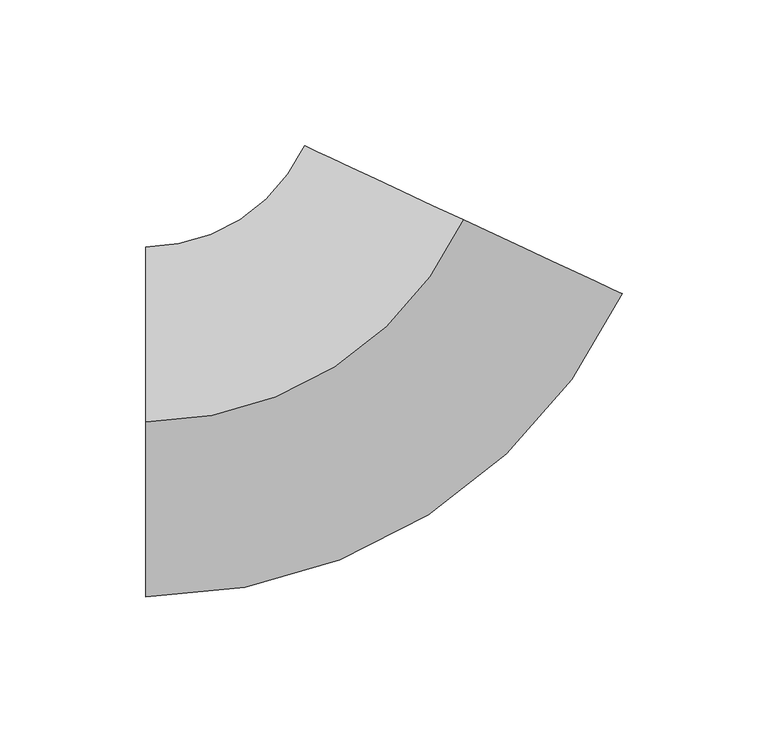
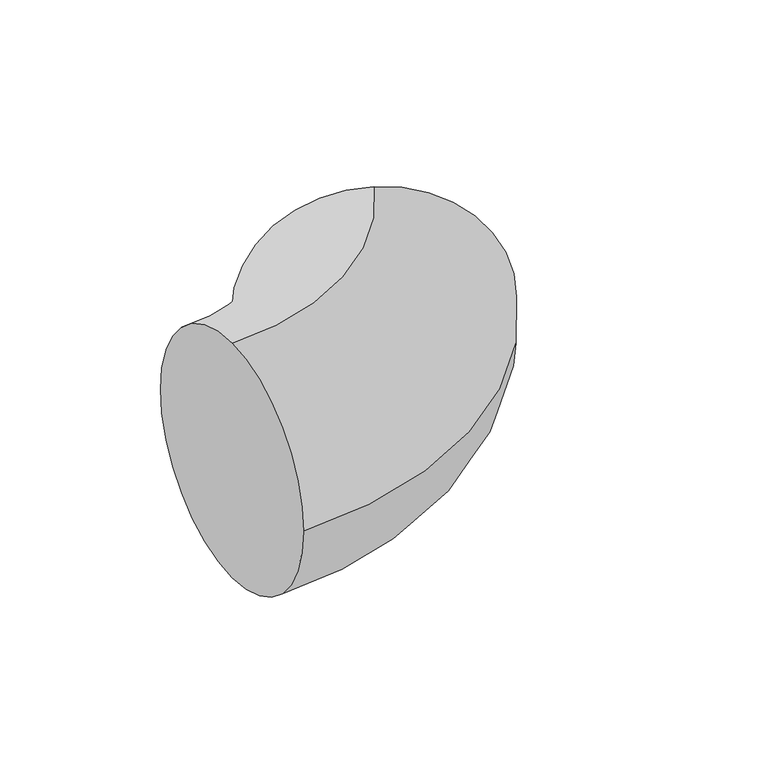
"""IFC4 building model written with IfcOpenShell, lengths in millimetres: duct fitting geometry, Семейство10 : Стандартная."""

from ifc_helpers import new_model, si_unit, point, frame, origin, place, context, project, spatial, circle_curve, ellipse_curve, trimmed, source, transform, mapped, element, save
from ifc_brep_helpers import plane_surface, revolved_surface, advanced_brep


def duct_fitting_da02216d(model_context):
    return source(origin(), model_context, "Body", "AdvancedBrep", [
        advanced_brep(
        [(-76.4484313, 0.0, 60.0), (-76.4484313, 60.0, 0.0), (-76.4484313, 0.0, -60.0), (-76.4484313, -60.0, 0.0), (32.3085031, 69.2858086, 60.0), (86.6869704, 43.9287129, 0.0), (32.3085031, 69.2858086, -60.0), (-22.0699641, 94.6429043, 0.0)],
        [
            (0, 1, circle_curve(frame((-76.4484313, 0.0, 0.0), z_axis=(-1.0, 0.0, 0.0), x_axis=(0.0, 1.0, 0.0)), 60.0)),
            (1, 2, circle_curve(frame((-76.4484313, 0.0, 0.0), z_axis=(-1.0, 0.0, 0.0), x_axis=(0.0, 1.0, 0.0)), 60.0)),
            (2, 3, circle_curve(frame((-76.4484313, 0.0, 0.0), z_axis=(-1.0, 0.0, 0.0), x_axis=(0.0, 1.0, 0.0)), 60.0)),
            (3, 0, circle_curve(frame((-76.4484313, 0.0, 0.0), z_axis=(-1.0, 0.0, 0.0), x_axis=(0.0, 1.0, 0.0)), 60.0)),
            (4, 5, circle_curve(frame((32.3085031, 69.2858086, 0.0), z_axis=(0.42261826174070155, 0.9063077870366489, 0.0), x_axis=(-0.9063077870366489, 0.42261826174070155, 0.0)), 60.0)),
            (5, 6, circle_curve(frame((32.3085031, 69.2858086, 0.0), z_axis=(0.42261826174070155, 0.9063077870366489, 0.0), x_axis=(-0.9063077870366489, 0.42261826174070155, 0.0)), 60.0)),
            (6, 7, circle_curve(frame((32.3085031, 69.2858086, 0.0), z_axis=(0.42261826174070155, 0.9063077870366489, 0.0), x_axis=(-0.9063077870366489, 0.42261826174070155, 0.0)), 60.0)),
            (7, 4, circle_curve(frame((32.3085031, 69.2858086, 0.0), z_axis=(0.42261826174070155, 0.9063077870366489, 0.0), x_axis=(-0.9063077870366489, 0.42261826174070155, 0.0)), 60.0)),
            (7, 1, circle_curve(frame((-76.4484313, 120.0, 0.0), z_axis=(0.0, 0.0, -1.0), x_axis=(0.0, -1.0, 0.0)), 60.0)),
            (0, 4, circle_curve(frame((-76.4484313, 120.0, 60.0), z_axis=(0.0, 0.0, 1.0), x_axis=(0.0, -1.0, 0.0)), 120.0)),
            (6, 2, circle_curve(frame((-76.4484313, 120.0, -60.0), z_axis=(0.0, 0.0, -1.0), x_axis=(0.0, -1.0, 0.0)), 120.0)),
            (5, 3, circle_curve(frame((-76.4484313, 120.0, 0.0), z_axis=(0.0, 0.0, -1.0), x_axis=(0.0, -1.0, 0.0)), 180.0)),
        ],
        [
            plane_surface(frame((-76.4484313, 0.0, 0.0), z_axis=(-1.0, 0.0, 0.0), x_axis=(0.0, 0.0, 1.0))),
            plane_surface(frame((32.3085031, 69.2858086, 0.0), z_axis=(0.42261826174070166, 0.906307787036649, 0.0), x_axis=(0.0, 0.0, 1.0))),
            revolved_surface(trimmed(ellipse_curve(frame((-76.4484313, 0.0, 0.0), z_axis=(-1.0, 0.0, 0.0), x_axis=(0.0, 1.0, 0.0)), 60.0, 60.0), [point((-76.4484313, 0.0, 60.0))], [point((-76.4484313, 60.0, 0.0))], True, "CARTESIAN"), (-76.4484313, 120.0, 0.0), (0.0, 0.0, 1.0)),
            revolved_surface(trimmed(ellipse_curve(frame((-76.4484313, 0.0, 0.0), z_axis=(-1.0, 0.0, 0.0), x_axis=(0.0, 1.0, 0.0)), 60.0, 60.0), [point((-76.4484313, 60.0, 0.0))], [point((-76.4484313, 0.0, -60.0))], True, "CARTESIAN"), (-76.4484313, 120.0, 0.0), (0.0, 0.0, 1.0)),
            revolved_surface(trimmed(ellipse_curve(frame((-76.4484313, 0.0, 0.0), z_axis=(-1.0, 0.0, 0.0), x_axis=(0.0, 1.0, 0.0)), 60.0, 60.0), [point((-76.4484313, 0.0, -60.0))], [point((-76.4484313, -60.0, 0.0))], True, "CARTESIAN"), (-76.4484313, 120.0, 0.0), (0.0, 0.0, 1.0)),
            revolved_surface(trimmed(ellipse_curve(frame((-76.4484313, 0.0, 0.0), z_axis=(-1.0, 0.0, 0.0), x_axis=(0.0, 1.0, 0.0)), 60.0, 60.0), [point((-76.4484313, -60.0, 0.0))], [point((-76.4484313, 0.0, 60.0))], True, "CARTESIAN"), (-76.4484313, 120.0, 0.0), (0.0, 0.0, 1.0)),
        ],
        [
            (0, [[1, 2, 3, 4]]),
            (1, [[5, 6, 7, 8]]),
            (2, [[9, -1, 10, -8]]),
            (3, [[11, -2, -9, -7]]),
            (4, [[12, -3, -11, -6]]),
            (5, [[-10, -4, -12, -5]]),
        ],
    ),
    ])


if __name__ == "__main__":
    model = new_model("IFC4")
    model_context = context("Model", 3, world=origin())
    ifc_project = project(units=[si_unit("LENGTHUNIT", "METRE", prefix="MILLI")], contexts=[model_context])
    site = spatial("IfcSite", under=ifc_project)
    building = spatial("IfcBuilding", under=site)
    placement = place(None, origin())
    duct_fitting_shape = duct_fitting_da02216d(model_context)
    element("IfcDuctFitting", 1, ObjectType="Семейство10 : Стандартная", at=placement, inside=building, context=model_context, shape_type="MappedRepresentation", body=[
        mapped(duct_fitting_shape, transform((0.0, 0.0, 0.0), x_axis=(1.0, 0.0, 0.0), y_axis=(0.0, 1.0, 0.0), z_axis=(0.0, 0.0, 1.0))),
    ])
    save(model, "model.ifc")
